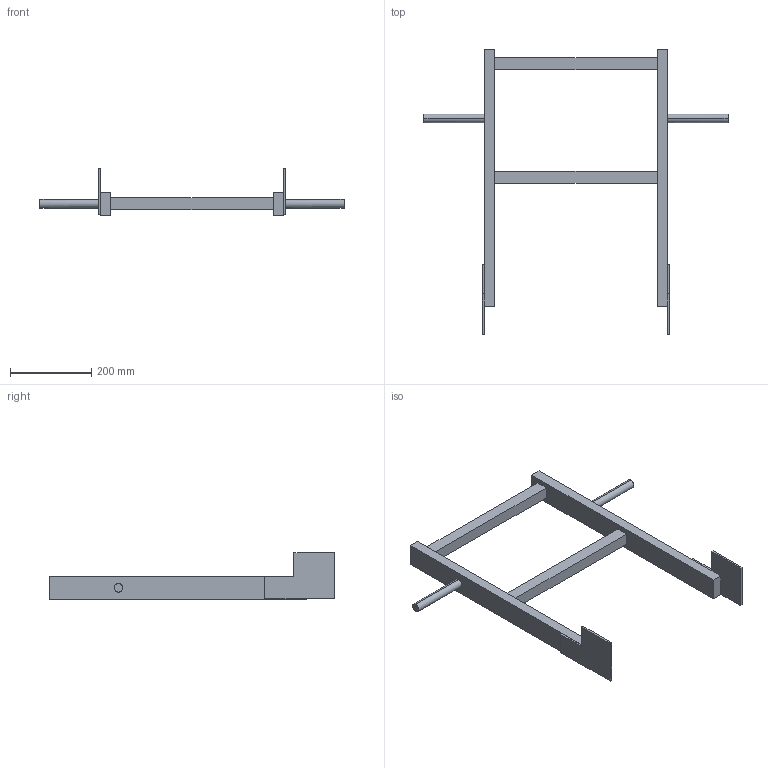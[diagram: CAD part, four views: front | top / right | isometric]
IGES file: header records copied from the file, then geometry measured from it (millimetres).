
Start section:  PTC IGES file: 52330578.igs
Global section: file name: 52330578.igs; native system: Creo Parametric by PTC Inc.; preprocessor: 2022162; author: wep; organization: Unknown; date: 20241218.081342; units: millimetre
Bounding box: 750 x 703 x 115 mm (x, y, z)
Surface area: 370354.8 mm2 (no closed solid volume)
Topology: 0 solids, 0 shells, 42 faces, 208 edges, 208 vertices
Faces by surface type: bspline 38, revolution 4
